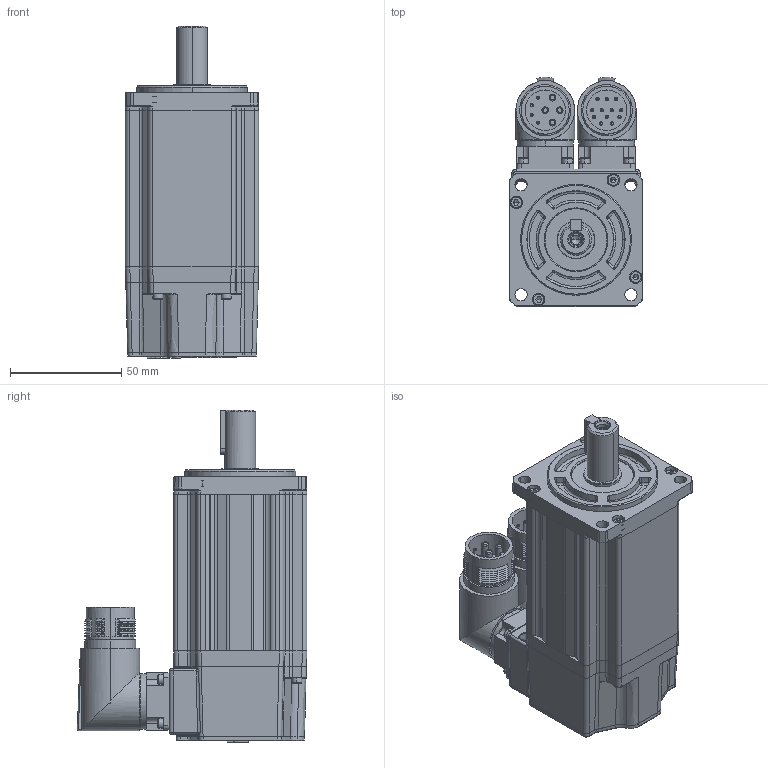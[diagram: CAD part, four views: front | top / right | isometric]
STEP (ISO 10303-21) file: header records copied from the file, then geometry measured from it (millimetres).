
FILE_DESCRIPTION (( 'STEP AP203' ), '1' );
FILE_NAME ('MC20-060-3L30-N201-1¡õPK-NNNN.STEP', '2025-05-04T11:11:15', ( '' ), ( '' ), 'SwSTEP 2.0', 'SolidWorks 2014', '' );
FILE_SCHEMA (( 'CONFIG_CONTROL_DESIGN' ));
Length unit declared in the file: millimetre
Products named in the file (1): MC20-060-3L30-N201-1¡õPK-NNNN
Bounding box: 60 x 103.37 x 149.5 mm (x, y, z)
Volume: 440601.6 mm3; surface area: 94107.9 mm2
Topology: 24 solids, 24 shells, 1866 faces, 4426 edges, 2679 vertices
Faces by surface type: plane 747, cylinder 508, cone 334, bspline 131, torus 126, sphere 20
Entity records: 55808 total; most frequent: CARTESIAN_POINT 13671, DIRECTION 8832, ORIENTED_EDGE 8720, EDGE_CURVE 4360, AXIS2_PLACEMENT_3D 3353, VERTEX_POINT 2679, LINE 2126, VECTOR 2126
